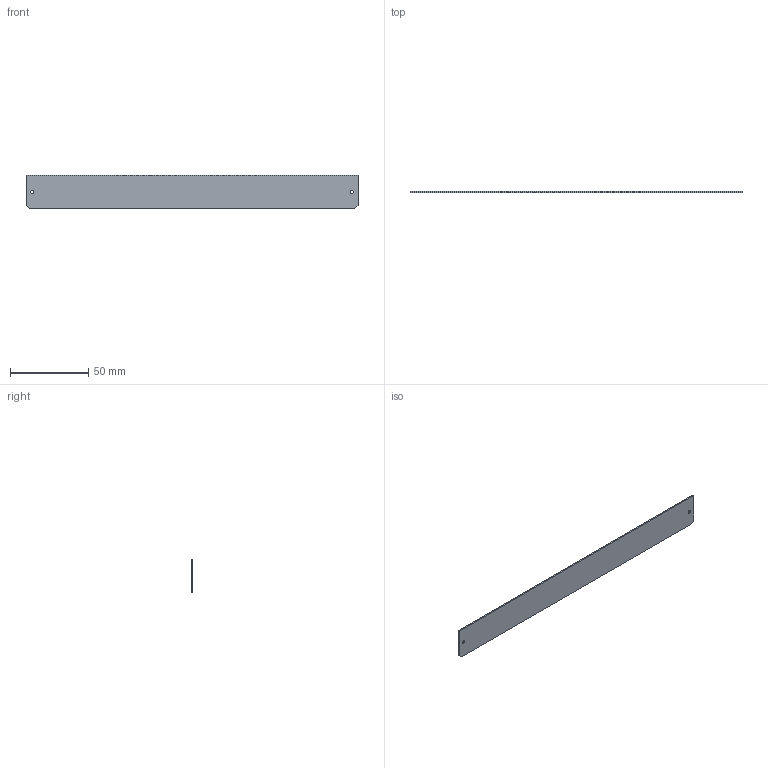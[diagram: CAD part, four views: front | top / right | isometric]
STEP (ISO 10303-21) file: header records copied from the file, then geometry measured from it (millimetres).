
FILE_DESCRIPTION (( 'STEP AP214' ), '1' );
FILE_NAME ('LBRX-00-200-3-POLARIZER-V.STEP', '2021-11-05T05:39:35', ( '' ), ( '' ), 'SwSTEP 2.0', 'SolidWorks 2021', '' );
FILE_SCHEMA (( 'AUTOMOTIVE_DESIGN' ));
Length unit declared in the file: millimetre
Products named in the file (1): LBRX-00-200-3-POLARIZER-V
Bounding box: 212 x 0.8 x 21.2 mm (x, y, z)
Volume: 3587.3 mm3; surface area: 9349.5 mm2
Topology: 1 solids, 1 shells, 12 faces, 30 edges, 20 vertices
Faces by surface type: plane 8, cylinder 4
Entity records: 404 total; most frequent: DIRECTION 64, CARTESIAN_POINT 63, ORIENTED_EDGE 60, EDGE_CURVE 30, LINE 22, VECTOR 22, AXIS2_PLACEMENT_3D 21, VERTEX_POINT 20
